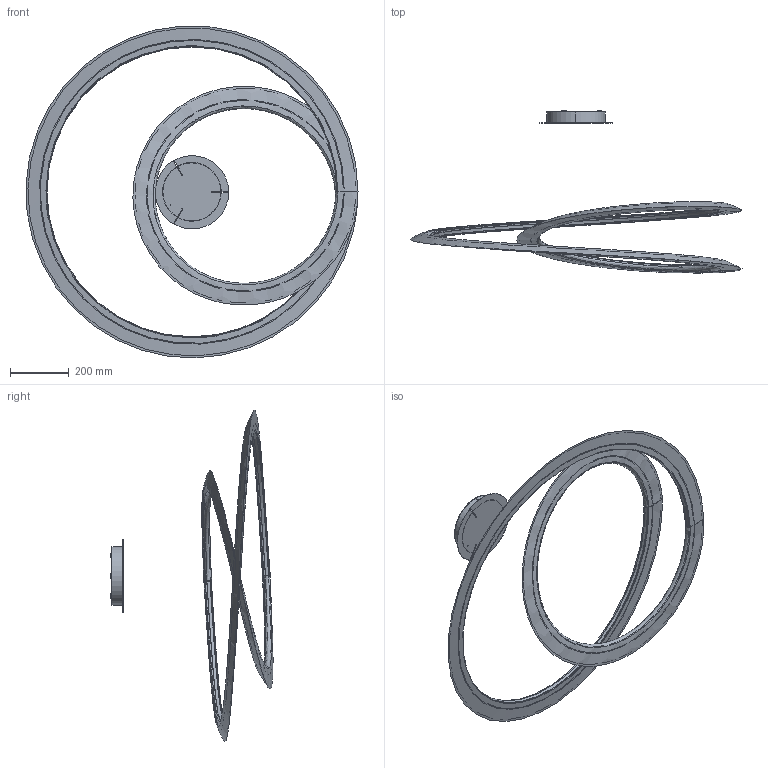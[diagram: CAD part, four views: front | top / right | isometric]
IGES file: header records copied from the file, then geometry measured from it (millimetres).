
Start section: SolidWorks IGES file using analytic representation for surfaces
Global section: file name: H:\importazione sito nemo\IMPORT GIUGNO 2016\materiali\254-kepler\Kepler2.IGS; native system: SolidWorks 2016; preprocessor: SolidWorks 2016; author: gpinheiro; date: 161026.160115; units: millimetre
Bounding box: 1131.98 x 553.2 x 1131.35 mm (x, y, z)
Volume: 2441549.1 mm3; surface area: 1931329.5 mm2
Topology: 6 solids, 6 shells, 191 faces, 476 edges, 312 vertices
Faces by surface type: revolution 112, plane 43, bspline 36
